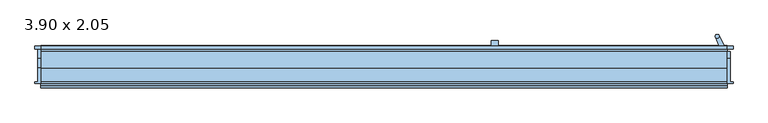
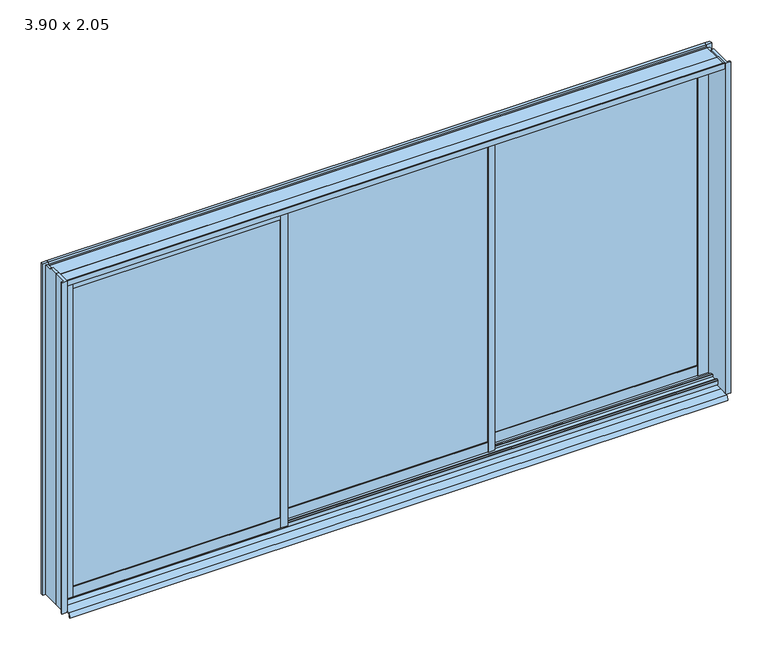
"""IFC4 building model written with IfcOpenShell, lengths in millimetres: window geometry, K-LINE COULISSANT NEUF-KLBC3R-3V : 3.90 x 2.05."""

import ifcopenshell
import ifcopenshell.guid

model = None  # the IFC model being written
_history = None  # IfcOwnerHistory: only IFC2X3 demands one
_inside = {}  # id of a spatial element -> (the spatial element, [elements in it])
_under = {}  # id of a project, library or spatial element -> (it, [spatial elements below it])
_declared = {}  # id of a project -> (the project, [libraries it declares])
_typed = {}  # id of a type object -> (the type object, [elements of that type])
_made_of = {}  # id of a material, layer set ... -> (it, [elements and type objects made of it])


def new_model(schema):
    """Start an empty IFC model of exactly this schema.

    Asked for "IFC4X3", IfcOpenShell would pick the latest addendum, in which some entities
    have other attributes; the version numbers below select the first issue.
    IFC2X3 requires an IfcOwnerHistory on every rooted entity: one is made here for all.
    """
    global model, _history
    if schema == "IFC4X3":
        model = ifcopenshell.file(schema_version=(4, 3, 0, 0))
    else:
        model = ifcopenshell.file(schema=schema)
    _inside.clear()
    _under.clear()
    _declared.clear()
    _typed.clear()
    _made_of.clear()
    _history = None
    if model.schema == "IFC2X3":
        org = make("IfcOrganization", Name="unknown")
        user = make(
            "IfcPersonAndOrganization",
            ThePerson=make("IfcPerson", FamilyName="unknown"),
            TheOrganization=org,
        )
        app = make(
            "IfcApplication",
            ApplicationDeveloper=org,
            Version="unknown",
            ApplicationFullName="unknown",
            ApplicationIdentifier="unknown",
        )
        _history = make(
            "IfcOwnerHistory",
            OwningUser=user,
            OwningApplication=app,
            ChangeAction="ADDED",
            CreationDate=0,
        )
    return model


def make(cls, **values):
    """One entity of the class cls with the attributes given. An attribute that is None is left unset."""
    return model.create_entity(
        cls, **{name: value for name, value in values.items() if value is not None}
    )


def rooted(cls, **values):
    """An entity with a GlobalId (a new one), such as an element, a storey or a relation."""
    return make(cls, GlobalId=ifcopenshell.guid.new(), OwnerHistory=_history, **values)


def si_unit(unit_type, name, prefix=None):
    """IfcSIUnit, for example si_unit("LENGTHUNIT", "METRE", prefix="MILLI")."""
    return make("IfcSIUnit", UnitType=unit_type, Prefix=prefix, Name=name)


def assignment(units):
    """IfcUnitAssignment: the units of a project."""
    return None if units is None else make("IfcUnitAssignment", Units=units)


def point(xyz):
    """IfcCartesianPoint."""
    return None if xyz is None else make("IfcCartesianPoint", Coordinates=xyz)


def direction(xyz):
    """IfcDirection."""
    return None if xyz is None else make("IfcDirection", DirectionRatios=xyz)


def frame(location, z_axis=None, x_axis=None):
    """IfcAxis2Placement3D, a coordinate frame: its origin and axes. An axis left out is left unset."""
    return make(
        "IfcAxis2Placement3D",
        Location=point(location),
        Axis=direction(z_axis),
        RefDirection=direction(x_axis),
    )


def frame_2d(location, x_axis=None):
    """IfcAxis2Placement2D, a coordinate frame in the plane: its origin and x axis."""
    return make(
        "IfcAxis2Placement2D", Location=point(location), RefDirection=direction(x_axis)
    )


def origin():
    """The frame at (0, 0, 0) with its axes left unset."""
    return frame((0.0, 0.0, 0.0))


def place(relative_to, where):
    """IfcLocalPlacement: puts the frame where relative to a parent placement (None: the world)."""
    return make(
        "IfcLocalPlacement", PlacementRelTo=relative_to, RelativePlacement=where
    )


def context(
    kind, dimensions, precision=None, world=None, true_north=None, identifier=None
):
    """IfcGeometricRepresentationContext, for example the 3D "Model" context."""
    return make(
        "IfcGeometricRepresentationContext",
        ContextIdentifier=identifier,
        ContextType=kind,
        CoordinateSpaceDimension=dimensions,
        Precision=precision,
        WorldCoordinateSystem=world,
        TrueNorth=true_north,
    )


def project(units=None, contexts=None):
    """IfcProject with its units and contexts."""
    return rooted(
        "IfcProject",
        Name="project",
        RepresentationContexts=contexts,
        UnitsInContext=assignment(units),
    )


def spatial(cls, under=None, at=None, **own):
    """A site, building, storey or space (cls), placed at a placement, below another one or the project."""
    s = rooted(cls, ObjectPlacement=at, **own)
    if under is not None:
        _under.setdefault(under.id(), (under, []))[1].append(s)
    return s


def polyline(points):
    """IfcPolyline through the points."""
    return make("IfcPolyline", Points=[point(p) for p in points])


def circle_curve(where, radius):
    """IfcCircle in the frame where."""
    return make("IfcCircle", Position=where, Radius=radius)


def trimmed(basis, trim1, trim2, sense, master):
    """IfcTrimmedCurve: the piece of a basis curve between two trims."""
    return make(
        "IfcTrimmedCurve",
        BasisCurve=basis,
        Trim1=trim1,
        Trim2=trim2,
        SenseAgreement=sense,
        MasterRepresentation=master,
    )


def segment(curve, same_sense, transition):
    """IfcCompositeCurveSegment."""
    return make(
        "IfcCompositeCurveSegment",
        Transition=transition,
        SameSense=same_sense,
        ParentCurve=curve,
    )


def composite_curve(segments, self_intersect=None):
    """IfcCompositeCurve: segments joined end to end."""
    return make("IfcCompositeCurve", Segments=segments, SelfIntersect=self_intersect)


def outline(outer, holes=None, kind="AREA"):
    """IfcArbitraryClosedProfileDef: a profile drawn as a closed curve; with holes, ...WithVoids."""
    if holes is None:
        return make("IfcArbitraryClosedProfileDef", ProfileType=kind, OuterCurve=outer)
    return make(
        "IfcArbitraryProfileDefWithVoids",
        ProfileType=kind,
        OuterCurve=outer,
        InnerCurves=holes,
    )


def extrude(swept, where, along, depth):
    """IfcExtrudedAreaSolid: the profile swept, set in the frame where, extruded along a direction by depth."""
    return make(
        "IfcExtrudedAreaSolid",
        SweptArea=swept,
        Position=where,
        ExtrudedDirection=direction(along),
        Depth=depth,
    )


def faces_of(points, faces, orient=None, outer=None):
    """IfcFace entities. A face is a list of loops; a loop is a list of indices into points, from 0.

    orient and outer hold one flag for each loop. By default every Orientation is true, the
    first loop of a face is its IfcFaceOuterBound and the others are IfcFaceBound.
    """
    made = []
    for i, loops in enumerate(faces):
        bounds = []
        for j, loop in enumerate(loops):
            is_outer = j == 0 if outer is None else outer[i][j]
            bounds.append(
                make(
                    "IfcFaceOuterBound" if is_outer else "IfcFaceBound",
                    Bound=make("IfcPolyLoop", Polygon=[points[k] for k in loop]),
                    Orientation=True if orient is None else orient[i][j],
                )
            )
        made.append(make("IfcFace", Bounds=bounds))
    return made


def faceted_brep(points, faces, orient=None, outer=None, voids=None):
    """IfcFacetedBrep: a solid bounded by flat faces; with voids (closed shells), ...WithVoids."""
    shared = [point(p) for p in points]
    hull = make("IfcClosedShell", CfsFaces=faces_of(shared, faces, orient, outer))
    if voids is None:
        return make("IfcFacetedBrep", Outer=hull)
    return make(
        "IfcFacetedBrepWithVoids",
        Outer=hull,
        Voids=[
            make(cls, CfsFaces=faces_of(shared, fs, o, b)) for cls, fs, o, b in voids
        ],
    )


def shape(context_of_items, identifier, shape_type, items):
    """IfcShapeRepresentation: the items that make up one representation, for example the "Body"."""
    return make(
        "IfcShapeRepresentation",
        ContextOfItems=context_of_items,
        RepresentationIdentifier=identifier,
        RepresentationType=shape_type,
        Items=items,
    )


def source(mapping_origin, context_of_items, identifier, shape_type, items):
    """IfcRepresentationMap: a shape defined once, which mapped items show again and again."""
    return make(
        "IfcRepresentationMap",
        MappingOrigin=mapping_origin,
        MappedRepresentation=shape(context_of_items, identifier, shape_type, items),
    )


def transform(
    local_origin,
    x_axis=None,
    y_axis=None,
    z_axis=None,
    scale=None,
    scale2=None,
    scale3=None,
    uniform=True,
):
    """IfcCartesianTransformationOperator3D, or its non-uniform kind. x_axis, y_axis, z_axis: its Axis1, 2, 3."""
    if uniform:
        return make(
            "IfcCartesianTransformationOperator3D",
            Axis1=direction(x_axis),
            Axis2=direction(y_axis),
            LocalOrigin=point(local_origin),
            Scale=scale,
            Axis3=direction(z_axis),
        )
    return make(
        "IfcCartesianTransformationOperator3DnonUniform",
        Axis1=direction(x_axis),
        Axis2=direction(y_axis),
        LocalOrigin=point(local_origin),
        Scale=scale,
        Axis3=direction(z_axis),
        Scale2=scale2,
        Scale3=scale3,
    )


def mapped(mapping_source, mapping_target):
    """IfcMappedItem: shows the shape of a source again, moved by a transform."""
    return make(
        "IfcMappedItem", MappingSource=mapping_source, MappingTarget=mapping_target
    )


def made_of(thing, what):
    """Note that an element or type object is made of a material, layer set ...; save() writes the relation."""
    if what is not None:
        _made_of.setdefault(what.id(), (what, []))[1].append(thing)
    return thing


def element(
    cls,
    number,
    at=None,
    inside=None,
    cuts=None,
    type_object=None,
    material=None,
    context=None,
    identifier="Body",
    shape_type=None,
    held_by="IfcProductDefinitionShape",
    body=None,
    shapes=None,
    **own,
):
    """One element of the class cls, such as IfcWall. Its Tag is "e" and its number.

    at: its placement. inside: the storey or other place that contains it. cuts: it is an
    opening in that element (IfcRelVoidsElement). A single representation is given by context,
    identifier, shape_type and body (its items); several are given by shapes. held_by: the class
    of the entity that holds the representations. save() writes the other relations.
    """
    e = rooted(cls, Tag="e%d" % number, ObjectPlacement=at, **own)
    if body is not None:
        shapes = [shape(context, identifier, shape_type, body)]
    if shapes is not None:
        e.Representation = make(held_by, Representations=shapes)
    if inside is not None:
        _inside.setdefault(inside.id(), (inside, []))[1].append(e)
    if cuts is not None:
        rooted(
            "IfcRelVoidsElement", RelatingBuildingElement=cuts, RelatedOpeningElement=e
        )
    if type_object is not None:
        _typed.setdefault(type_object.id(), (type_object, []))[1].append(e)
    return made_of(e, material)


def aggregate(whole, parts):
    """IfcRelAggregates: a whole, such as a stair, and the parts it consists of."""
    return rooted("IfcRelAggregates", RelatingObject=whole, RelatedObjects=parts)


def save(model, path):
    """Write the relations noted so far, then the file.

    IfcRelAggregates (storeys below a building ...), IfcRelContainedInSpatialStructure (elements
    in a storey), IfcRelDefinesByType, IfcRelAssociatesMaterial and IfcRelDeclares: one each for
    every whole, place, type object, material and project.
    """
    for whole, parts in _under.values():
        aggregate(whole, parts)
    for where, things in _inside.values():
        rooted(
            "IfcRelContainedInSpatialStructure",
            RelatedElements=things,
            RelatingStructure=where,
        )
    for kind, things in _typed.values():
        rooted("IfcRelDefinesByType", RelatedObjects=things, RelatingType=kind)
    for what, things in _made_of.values():
        rooted("IfcRelAssociatesMaterial", RelatedObjects=things, RelatingMaterial=what)
    for by, libraries in _declared.values():
        rooted("IfcRelDeclares", RelatingContext=by, RelatedDefinitions=libraries)
    model.write(path)


def plane_surface(at):
    """IfcPlane: the flat surface through the origin of the frame at, square to its z axis."""
    return make("IfcPlane", Position=at)


def cylinder_surface(at, radius):
    """IfcCylindricalSurface: all points at the distance radius from the z axis of the frame at."""
    return make("IfcCylindricalSurface", Position=at, Radius=radius)


def advanced_brep(points, edges, surfaces, faces):
    """IfcAdvancedBrep: a solid bounded by faces that lie on surfaces and meet in shared edges.

    An edge is (start, end): straight between two places in points (the first is 0);
    or (start, end, curve); or (start, end, curve, False) where it runs against its curve.
    A face is (place in surfaces, loops), or (place, loops, False) where it looks against
    its surface's normal. A loop lists edges by number (the first is 1), with a minus sign
    where the edge is run from its end to its start. The first loop is the outer one.
    """
    corners = [point(p) for p in points]
    vertices = [make("IfcVertexPoint", VertexGeometry=c) for c in corners]
    made = []
    for start, end, *more in edges:
        made.append(
            make(
                "IfcEdgeCurve",
                EdgeStart=vertices[start],
                EdgeEnd=vertices[end],
                EdgeGeometry=more[0] if more else make("IfcPolyline", Points=[corners[start], corners[end]]),
                SameSense=more[1] if len(more) > 1 else True,
            )
        )
    hull = []
    for where, loops, *sense in faces:
        bounds = []
        for j, loop in enumerate(loops):
            ring = [make("IfcOrientedEdge", EdgeElement=made[abs(k) - 1], Orientation=k > 0) for k in loop]
            bounds.append(
                make(
                    "IfcFaceOuterBound" if j == 0 else "IfcFaceBound",
                    Bound=make("IfcEdgeLoop", EdgeList=ring),
                    Orientation=True,
                )
            )
        hull.append(make("IfcAdvancedFace", Bounds=bounds, FaceSurface=surfaces[where], SameSense=sense[0] if sense else True))
    return make("IfcAdvancedBrep", Outer=make("IfcClosedShell", CfsFaces=hull))


def window_3_90_x_2_05_370ec719(model_context):
    return source(origin(), model_context, "Body", "SolidModel", [
        extrude(outline(polyline([(-625.0, -11.0), (625.0, -11.0), (625.0, -39.0), (-625.0, -39.0), (-625.0, -11.0)])), frame((0.0, 0.0, 92.0), z_axis=(0.0, 0.0, 1.0), x_axis=(1.0, 0.0, 0.0)), (0.0, 0.0, 1.0), 1897.0),
        faceted_brep([(-647.0, -17.0, 57.0), (-647.0, -33.0, 57.0), (-650.0, -33.0, 57.0), (-650.0, -17.0, 57.0), (-647.0, -33.0, 44.0), (-650.0, -33.0, 44.0), (-650.0, -17.0, 44.0), (-647.0, -17.0, 44.0), (-647.0, -17.0, 2024.0), (-647.0, -17.0, 2037.0), (-650.0, -17.0, 2037.0), (-650.0, -17.0, 2024.0), (-650.0, -33.0, 2024.0), (-650.0, -33.0, 2037.0), (-647.0, -33.0, 2037.0), (-647.0, -33.0, 2024.0), (-647.0, -53.25, 2037.0), (-650.0, -53.25, 2037.0), (-650.0, -3.25, 2037.0), (-647.0, -11.0, 2037.0), (-610.0, -11.0, 2037.0), (-610.0, -3.25, 2037.0), (-647.0, -11.0, 44.0), (-650.0, -3.25, 44.0), (-610.0, -3.25, 44.0), (-610.0, -11.0, 44.0), (-650.0, -53.25, 44.0), (-647.0, -53.25, 44.0)], [[[0, 1, 2, 3]], [[1, 4, 5, 2]], [[3, 6, 7, 0]], [[8, 9, 10, 11]], [[12, 13, 14, 15]], [[11, 12, 15, 8]], [[16, 14, 13, 17]], [[18, 10, 9, 19, 20, 21]], [[22, 7, 6, 23, 24, 25]], [[26, 5, 4, 27]], [[17, 26, 27, 16]], [[17, 13, 12, 11, 10, 18, 23, 6, 3, 2, 5, 26]], [[21, 24, 23, 18]], [[20, 25, 24, 21]], [[19, 22, 25, 20]], [[27, 4, 1, 0, 7, 22, 19, 9, 8, 15, 14, 16]]]),
        extrude(outline(polyline([(-650.0, 49.75), (-610.0, 49.75), (-610.0, -3.25), (-650.0, -3.25), (-650.0, 49.75)])), frame((0.0, 0.0, 57.0), z_axis=(0.0, 0.0, 1.0), x_axis=(1.0, 0.0, 0.0)), (0.0, 0.0, 1.0), 1967.0),
        extrude(outline(polyline([(-5.0, 44.0), (-17.0, 44.0), (-17.0, 57.0), (-25.0, 57.0), (-25.0, 92.0), (-11.0, 92.0), (-11.0, 106.0), (-5.0, 106.0), (-5.0, 44.0)])), frame((-610.0, 0.0, 0.0), z_axis=(1.0, 0.0, 0.0), x_axis=(0.0, 1.0, 0.0)), (0.0, 0.0, 1.0), 1220.0),
        extrude(outline(polyline([(-5.0, 2037.0), (-5.0, 1975.0), (-11.0, 1975.0), (-11.0, 1989.0), (-25.0, 1989.0), (-25.0, 2024.0), (-17.0, 2024.0), (-17.0, 2037.0), (-5.0, 2037.0)])), frame((-610.0, 0.0, 0.0), z_axis=(1.0, 0.0, 0.0), x_axis=(0.0, 1.0, 0.0)), (0.0, 0.0, 1.0), 1220.0),
        faceted_brep([(630.0, 3.25, 2037.0), (630.0, -3.25, 2037.0), (610.0, -3.25, 2037.0), (610.0, -11.0, 2037.0), (625.0, -11.0, 2037.0), (625.0, -17.0, 2037.0), (647.0, -17.0, 2037.0), (647.0, 3.25, 2037.0), (647.0, -39.0, 2037.0), (647.0, -33.0, 2037.0), (625.0, -33.0, 2037.0), (625.0, -39.0, 2037.0), (630.0, 3.25, 44.0), (647.0, 3.25, 44.0), (647.0, -17.0, 44.0), (625.0, -17.0, 44.0), (625.0, -11.0, 44.0), (610.0, -11.0, 44.0), (610.0, -3.25, 44.0), (630.0, -3.25, 44.0), (625.0, -39.0, 44.0), (625.0, -33.0, 44.0), (647.0, -33.0, 44.0), (647.0, -39.0, 44.0), (647.0, -17.0, 2024.0), (647.0, -33.0, 2024.0), (647.0, -33.0, 57.0), (647.0, -17.0, 57.0), (625.0, -33.0, 2024.0), (625.0, -17.0, 2024.0), (625.0, -17.0, 57.0), (625.0, -33.0, 57.0)], [[[0, 1, 2, 3, 4, 5, 6, 7]], [[8, 9, 10, 11]], [[12, 13, 14, 15, 16, 17, 18, 19]], [[20, 21, 22, 23]], [[7, 13, 12, 0]], [[7, 6, 24, 25, 9, 8, 23, 22, 26, 27, 14, 13]], [[11, 20, 23, 8]], [[11, 10, 28, 29, 5, 4, 16, 15, 30, 31, 21, 20]], [[3, 17, 16, 4]], [[2, 18, 17, 3]], [[1, 19, 18, 2]], [[0, 12, 19, 1]], [[27, 26, 31, 30]], [[26, 22, 21, 31]], [[30, 15, 14, 27]], [[24, 6, 5, 29]], [[28, 10, 9, 25]], [[29, 28, 25, 24]]]),
        faceted_brep([(-630.0, -53.25, 2037.0), (-630.0, -46.75, 2037.0), (-610.0, -46.75, 2037.0), (-610.0, -39.0, 2037.0), (-625.0, -39.0, 2037.0), (-625.0, -33.0, 2037.0), (-647.0, -33.0, 2037.0), (-647.0, -53.25, 2037.0), (-647.0, -11.0, 2037.0), (-647.0, -17.0, 2037.0), (-625.0, -17.0, 2037.0), (-625.0, -11.0, 2037.0), (-630.0, -53.25, 44.0), (-647.0, -53.25, 44.0), (-647.0, -33.0, 44.0), (-625.0, -33.0, 44.0), (-625.0, -39.0, 44.0), (-610.0, -39.0, 44.0), (-610.0, -46.75, 44.0), (-630.0, -46.75, 44.0), (-625.0, -11.0, 44.0), (-625.0, -17.0, 44.0), (-647.0, -17.0, 44.0), (-647.0, -11.0, 44.0), (-625.0, -17.0, 57.0), (-625.0, -33.0, 57.0), (-647.0, -33.0, 57.0), (-647.0, -17.0, 57.0), (-625.0, -17.0, 2024.0), (-647.0, -17.0, 2024.0), (-647.0, -33.0, 2024.0), (-625.0, -33.0, 2024.0)], [[[0, 1, 2, 3, 4, 5, 6, 7]], [[8, 9, 10, 11]], [[12, 13, 14, 15, 16, 17, 18, 19]], [[20, 21, 22, 23]], [[24, 25, 26, 27]], [[25, 15, 14, 26]], [[27, 22, 21, 24]], [[28, 10, 9, 29]], [[30, 6, 5, 31]], [[29, 30, 31, 28]], [[7, 13, 12, 0]], [[7, 6, 30, 29, 9, 8, 23, 22, 27, 26, 14, 13]], [[11, 20, 23, 8]], [[11, 10, 28, 31, 5, 4, 16, 15, 25, 24, 21, 20]], [[3, 17, 16, 4]], [[2, 18, 17, 3]], [[1, 19, 18, 2]], [[0, 12, 19, 1]]]),
        faceted_brep([(647.0, 3.25, 2037.0), (647.0, -17.0, 2037.0), (650.0, -17.0, 2037.0), (650.0, 3.25, 2037.0), (650.0, -46.75, 2037.0), (650.0, -33.0, 2037.0), (647.0, -33.0, 2037.0), (647.0, -39.0, 2037.0), (610.0, -39.0, 2037.0), (610.0, -46.75, 2037.0), (647.0, -39.0, 44.0), (647.0, -33.0, 44.0), (650.0, -33.0, 44.0), (650.0, -46.75, 44.0), (610.0, -46.75, 44.0), (610.0, -39.0, 44.0), (650.0, 3.25, 44.0), (650.0, -17.0, 44.0), (647.0, -17.0, 44.0), (647.0, 3.25, 44.0), (650.0, -17.0, 2024.0), (650.0, -33.0, 2024.0), (650.0, -33.0, 57.0), (650.0, -17.0, 57.0), (647.0, -17.0, 57.0), (647.0, -33.0, 57.0), (647.0, -33.0, 2024.0), (647.0, -17.0, 2024.0)], [[[0, 1, 2, 3]], [[4, 5, 6, 7, 8, 9]], [[10, 11, 12, 13, 14, 15]], [[16, 17, 18, 19]], [[3, 16, 19, 0]], [[3, 2, 20, 21, 5, 4, 13, 12, 22, 23, 17, 16]], [[9, 14, 13, 4]], [[8, 15, 14, 9]], [[7, 10, 15, 8]], [[19, 18, 24, 25, 11, 10, 7, 6, 26, 27, 1, 0]], [[23, 22, 25, 24]], [[22, 12, 11, 25]], [[24, 18, 17, 23]], [[20, 2, 1, 27]], [[26, 6, 5, 21]], [[27, 26, 21, 20]]]),
        extrude(outline(polyline([(-45.0, 44.0), (-45.0, 106.0), (-39.0, 106.0), (-39.0, 92.0), (-25.0, 92.0), (-25.0, 57.0), (-33.0, 57.0), (-33.0, 44.0), (-45.0, 44.0)])), frame((-610.0, 0.0, 0.0), z_axis=(1.0, 0.0, 0.0), x_axis=(0.0, 1.0, 0.0)), (0.0, 0.0, 1.0), 1220.0),
        extrude(outline(polyline([(-45.0, 2037.0), (-33.0, 2037.0), (-33.0, 2024.0), (-25.0, 2024.0), (-25.0, 1989.0), (-39.0, 1989.0), (-39.0, 1975.0), (-45.0, 1975.0), (-45.0, 2037.0)])), frame((-610.0, 0.0, 0.0), z_axis=(1.0, 0.0, 0.0), x_axis=(0.0, 1.0, 0.0)), (0.0, 0.0, 1.0), 1220.0),
        extrude(outline(composite_curve([segment(polyline([(-175.2000885, 11.2777699), (-115.0, 13.3054296), (-115.0, 5.0), (-178.7764266, 5.0), (-178.7764266, -16.0), (-185.2764266, -16.0)]), True, "CONTINUOUS"), segment(trimmed(circle_curve(frame_2d((-154.7928846, -11.7605704)), 30.7769247), [point((-185.2764266, -16.0))], [point((-175.2000885, 11.2777699))], False, "CARTESIAN"), True, "CONTINUOUS")], self_intersect=False)), frame((-1950.0, 0.0, 0.0), z_axis=(1.0, 0.0, 0.0), x_axis=(0.0, 1.0, 0.0)), (0.0, 0.0, 1.0), 3900.0),
        faceted_brep([(-1950.0, -160.0, 2082.0), (-1950.0, -72.5, 2082.0), (-1965.0, -72.5, 2082.0), (-1965.0, -152.0, 2082.0), (-1982.0, -152.0, 2082.0), (-1982.0, -160.0, 2082.0), (-1950.0, -160.0, 5.0), (-1982.0, -160.0, 5.0), (-1982.0, -152.0, 5.0), (-1965.0, -152.0, 5.0), (-1965.0, -72.5, 5.0), (-1950.0, -72.5, 5.0)], [[[0, 1, 2, 3, 4, 5]], [[6, 7, 8, 9, 10, 11]], [[5, 7, 6, 0]], [[4, 8, 7, 5]], [[3, 9, 8, 4]], [[2, 10, 9, 3]], [[0, 6, 11, 1]], [[1, 11, 10, 2]]]),
        faceted_brep([(1965.0, -152.0, 2082.0), (1965.0, -17.5, 2082.0), (1950.0, -17.5, 2082.0), (1950.0, -160.0, 2082.0), (1982.0, -160.0, 2082.0), (1982.0, -152.0, 2082.0), (1950.0, -160.0, 5.0), (1950.0, 22.5, 5.0), (1965.0, 22.5, 5.0), (1965.0, -152.0, 5.0), (1982.0, -152.0, 5.0), (1982.0, -160.0, 5.0), (1950.0, -17.5, 2069.3), (1950.0, 22.5, 2069.3), (1965.0, 22.5, 2069.3), (1965.0, -17.5, 2069.3)], [[[0, 1, 2, 3, 4, 5]], [[6, 7, 8, 9, 10, 11]], [[6, 3, 2, 12, 13, 7]], [[7, 13, 14, 8]], [[8, 14, 15, 1, 0, 9]], [[5, 10, 9, 0]], [[4, 11, 10, 5]], [[3, 6, 11, 4]], [[15, 14, 13, 12]], [[12, 2, 1, 15]]]),
        faceted_brep([(-1982.0, 51.75, 2082.0), (-1982.0, 35.0, 2082.0), (-1950.0, 35.0, 2082.0), (-1950.0, 51.75, 2082.0), (-1950.0, -72.5, 2082.0), (-1950.0, -17.5, 2082.0), (-1965.0, -17.5, 2082.0), (-1965.0, -72.5, 2082.0), (-1982.0, 51.75, 5.0), (-1950.0, 51.75, 5.0), (-1950.0, -72.5, 5.0), (-1965.0, -72.5, 5.0), (-1965.0, 35.0, 5.0), (-1982.0, 35.0, 5.0), (-1950.0, 35.0, 2069.3), (-1950.0, -17.5, 2069.3), (-1965.0, -17.5, 2069.3), (-1965.0, 35.0, 2069.3)], [[[0, 1, 2, 3]], [[4, 5, 6, 7]], [[8, 9, 10, 11, 12, 13]], [[3, 9, 8, 0]], [[9, 3, 2, 14, 15, 5, 4, 10]], [[11, 7, 6, 16, 17, 12]], [[2, 1, 13, 12, 17, 14]], [[0, 8, 13, 1]], [[17, 16, 15, 14]], [[16, 6, 5, 15]], [[7, 11, 10, 4]]]),
        faceted_brep([(1982.0, 51.75, 2082.0), (1950.0, 51.75, 2082.0), (1950.0, 35.0, 2082.0), (1965.0, 35.0, 2082.0), (1982.0, 35.0, 2082.0), (1982.0, 51.75, 5.0), (1982.0, 35.0, 5.0), (1950.0, 35.0, 5.0), (1950.0, 51.75, 5.0), (1950.0, 35.0, 2069.3)], [[[0, 1, 2, 3, 4]], [[5, 6, 7, 8]], [[4, 6, 5, 0]], [[6, 4, 3, 2, 9, 7]], [[1, 8, 7, 9, 2]], [[0, 5, 8, 1]]]),
        extrude(outline(polyline([(-17.5, 53.0), (-17.5, 41.0), (22.5, 41.0), (22.5, 53.0000399), (30.0, 54.0000399), (37.5, 53.0000399), (37.5, 50.5), (30.0, 50.5), (30.0, 5.0), (-73.5, 5.0), (-73.5, 50.5), (-87.5, 50.5), (-87.5, 53.0), (-80.0, 54.0), (-72.5, 53.0), (-72.5, 41.0), (-32.5, 41.0), (-32.5, 53.0), (-25.0, 54.0), (-17.5, 53.0)])), frame((-1950.0, 0.0, 0.0), z_axis=(1.0, 0.0, 0.0), x_axis=(0.0, 1.0, 0.0)), (0.0, 0.0, 1.0), 3900.0),
        extrude(outline(polyline([(22.5, 2069.3), (22.5, 2050.0), (-17.5, 2050.0), (-17.5, 2027.0), (-32.5, 2027.0), (-32.5, 2050.0), (-72.5, 2050.0), (-72.5, 2069.3), (22.5, 2069.3)])), frame((-1950.0, 0.0, 0.0), z_axis=(1.0, 0.0, 0.0), x_axis=(0.0, 1.0, 0.0)), (0.0, 0.0, 1.0), 3900.0),
        extrude(outline(polyline([(51.75, 2082.0), (51.75, 2050.0), (37.5, 2050.0), (37.5, 2027.0), (22.5, 2027.0), (22.5, 2069.3), (35.0, 2069.3), (35.0, 2082.0), (51.75, 2082.0)])), frame((-1950.0, 0.0, 0.0), z_axis=(1.0, 0.0, 0.0), x_axis=(0.0, 1.0, 0.0)), (0.0, 0.0, 1.0), 3900.0),
        extrude(outline(polyline([(54.75, 28.0), (54.75, 50.5), (56.75, 50.5), (56.75, 26.0), (51.75, 26.0), (51.75, 5.0), (30.0, 5.0), (30.0, 50.5), (37.5, 50.5), (37.5, 28.0), (54.75, 28.0)])), frame((-1950.0, 0.0, 0.0), z_axis=(1.0, 0.0, 0.0), x_axis=(0.0, 1.0, 0.0)), (0.0, 0.0, 1.0), 3900.0),
        extrude(outline(polyline([(-152.0, 2082.0), (-152.0, 2069.3), (-72.5, 2069.3), (-72.5, 2027.0), (-87.5, 2027.0), (-87.5, 2050.0), (-160.0, 2050.0), (-160.0, 2082.0), (-152.0, 2082.0)])), frame((-1950.0, 0.0, 0.0), z_axis=(1.0, 0.0, 0.0), x_axis=(0.0, 1.0, 0.0)), (0.0, 0.0, 1.0), 3900.0),
        extrude(outline(polyline([(-73.5, 50.5), (-73.5, 5.0), (-115.0, 5.0), (-115.0, 13.3054397), (-75.0, 14.6999056), (-75.0, 26.0), (-87.5, 26.0), (-87.5, 50.5), (-73.5, 50.5)])), frame((-1950.0, 0.0, 0.0), z_axis=(1.0, 0.0, 0.0), x_axis=(0.0, 1.0, 0.0)), (0.0, 0.0, 1.0), 3900.0),
        extrude(outline(polyline([(1950.0, 22.5), (1937.0, 22.5), (1937.0, 37.5), (1950.0, 37.5), (1950.0, 22.5)])), frame((0.0, 0.0, 50.5), z_axis=(0.0, 0.0, 1.0), x_axis=(1.0, 0.0, 0.0)), (0.0, 0.0, 1.0), 1976.5),
        extrude(outline(polyline([(-1937.0, -87.5), (-1950.0, -87.5), (-1950.0, -72.5), (-1937.0, -72.5), (-1937.0, -87.5)])), frame((0.0, 0.0, 50.5), z_axis=(0.0, 0.0, 1.0), x_axis=(1.0, 0.0, 0.0)), (0.0, 0.0, 1.0), 1976.5),
        extrude(outline(polyline([(1898.5, 44.0), (1898.5, 16.0), (635.0, 16.0), (635.0, 44.0), (1898.5, 44.0)])), frame((0.0, 0.0, 92.0), z_axis=(0.0, 0.0, 1.0), x_axis=(1.0, 0.0, 0.0)), (0.0, 0.0, 1.0), 1897.0),
        advanced_brep(
        [(1928.5, 51.75, 1120.5), (1928.5, 58.75, 1120.5), (1902.6288485, 111.1773049, 1120.5), (1883.2130019, 102.0019585, 1120.5), (1900.5, 58.75, 1120.5), (1900.5, 51.75, 1120.5), (1928.5, 51.75, 960.5), (1900.5, 51.75, 960.5), (1900.5, 58.75, 960.5), (1883.2130019, 102.0019585, 960.5), (1902.6288485, 111.1773049, 960.5), (1928.5, 58.75, 960.5), (1900.5, 58.75, 1109.7), (1900.5, 58.75, 971.3), (1928.5, 58.75, 1109.7), (1928.5, 58.75, 971.3), (1902.6288485, 111.1773049, 971.3), (1883.2130019, 102.0019585, 971.3), (1883.2130019, 102.0019585, 1109.7), (1902.6288485, 111.1773049, 1109.7), (1884.3501656, 116.75, 1157.5), (1899.4498344, 116.75, 1157.5), (1884.3501656, 116.75, 923.5), (1899.4498344, 116.75, 923.5)],
        [
            (0, 1),
            (1, 2),
            (2, 3, circle_curve(frame((1891.9, 108.75, 1120.5), z_axis=(0.0, 0.0, -1.0), x_axis=(1.0, 0.0, 0.0)), 11.0)),
            (3, 4),
            (4, 5),
            (5, 0),
            (6, 7),
            (7, 8),
            (8, 9),
            (9, 10, circle_curve(frame((1891.9, 108.75, 960.5), z_axis=(0.0, 0.0, 1.0), x_axis=(1.0, 0.0, 0.0)), 11.0)),
            (10, 11),
            (11, 6),
            (5, 7),
            (6, 0),
            (4, 12),
            (12, 13),
            (13, 8),
            (12, 14),
            (14, 15),
            (15, 13),
            (11, 15),
            (14, 1),
            (16, 17, circle_curve(frame((1891.9, 108.75, 971.3), z_axis=(0.0, 0.0, -1.0), x_axis=(1.0, 0.0, 0.0)), 11.0)),
            (17, 13),
            (15, 16),
            (10, 16),
            (17, 9),
            (18, 19, circle_curve(frame((1891.9, 108.75, 1109.7), z_axis=(0.0, 0.0, 1.0), x_axis=(1.0, 0.0, 0.0)), 11.0)),
            (19, 14),
            (12, 18),
            (19, 2),
            (3, 18),
            (20, 21, circle_curve(frame((1891.9, 108.75, 1157.5), z_axis=(0.0, 0.0, 1.0), x_axis=(1.0, 0.0, 0.0)), 11.0)),
            (21, 20),
            (22, 23),
            (23, 22, circle_curve(frame((1891.9, 108.75, 923.5), z_axis=(0.0, 0.0, -1.0), x_axis=(1.0, 0.0, 0.0)), 11.0)),
            (21, 23),
            (22, 20),
        ],
        [
            plane_surface(frame((1907.0679799, 51.75, 1120.5), z_axis=(0.0, 0.0, 1.0), x_axis=(-1.0, 0.0, 0.0))),
            plane_surface(frame((1907.0679799, 51.75, 960.5), z_axis=(0.0, 0.0, -1.0), x_axis=(1.0, 0.0, 0.0))),
            plane_surface(frame((1928.5, 51.75, 1120.5), z_axis=(0.0, -1.0, 0.0), x_axis=(0.0, 0.0, -1.0))),
            plane_surface(frame((1900.5, 51.75, 1120.5), z_axis=(-1.0, 0.0, 0.0), x_axis=(0.0, 0.0, -1.0))),
            plane_surface(frame((1900.5, 58.75, 1120.5), z_axis=(0.0, 1.0, 0.0), x_axis=(0.0, 0.0, -1.0))),
            plane_surface(frame((1928.5, 58.75, 1120.5), z_axis=(1.0, 0.0, 0.0), x_axis=(0.0, 0.0, -1.0))),
            plane_surface(frame((1902.9, 108.75, 971.3), z_axis=(0.0, 0.0, 1.0), x_axis=(0.0, 1.0, 0.0))),
            plane_surface(frame((1902.6288485, 111.1773049, 971.3), z_axis=(0.8967582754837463, 0.4425207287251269, 0.0), x_axis=(0.0, 0.0, -1.0))),
            plane_surface(frame((1900.5, 58.75, 971.3), z_axis=(-0.9285787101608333, -0.37113552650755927, 0.0), x_axis=(0.0, 0.0, -1.0))),
            plane_surface(frame((1902.9, 108.75, 1109.7), z_axis=(0.0, 0.0, -1.0), x_axis=(0.0, -1.0, 0.0))),
            plane_surface(frame((1902.6288485, 111.1773049, 1120.5), z_axis=(0.8967582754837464, 0.44252072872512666, 0.0), x_axis=(0.0, 0.0, -1.0))),
            plane_surface(frame((1900.5, 58.75, 1120.5), z_axis=(-0.9285787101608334, -0.37113552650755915, 0.0), x_axis=(0.0, 0.0, -1.0))),
            plane_surface(frame((1884.3501656, 116.75, 1157.5), z_axis=(0.0, 0.0, 1.0), x_axis=(1.0, 0.0, 0.0))),
            plane_surface(frame((1884.3501656, 116.75, 923.5), z_axis=(0.0, 0.0, -1.0), x_axis=(-1.0, 0.0, 0.0))),
            plane_surface(frame((1884.3501656, 116.75, 1157.5), z_axis=(0.0, 1.0, 0.0), x_axis=(0.0, 0.0, -1.0))),
            cylinder_surface(frame((1891.9, 108.75, 923.5), z_axis=(0.0, 0.0, 1.0), x_axis=(1.0, 0.0, 0.0)), 11.0),
        ],
        [
            (0, [[1, 2, 3, 4, 5, 6]]),
            (1, [[7, 8, 9, 10, 11, 12]]),
            (2, [[13, -7, 14, -6]]),
            (3, [[15, 16, 17, -8, -13, -5]]),
            (4, [[-16, 18, 19, 20]]),
            (5, [[-14, -12, 21, -19, 22, -1]]),
            (6, [[23, 24, -20, 25]]),
            (7, [[-21, -11, 26, -25]]),
            (8, [[27, -9, -17, -24]]),
            (9, [[28, 29, -18, 30]]),
            (10, [[-22, -29, 31, -2]]),
            (11, [[32, -30, -15, -4]]),
            (12, [[33, 34]]),
            (13, [[35, 36]]),
            (14, [[37, -35, 38, -34]]),
            (15, [[-38, -36, -37, -33], [-27, -23, -26, -10], [-31, -28, -32, -3]]),
        ],
    ),
        extrude(outline(polyline([(650.0, 83.75), (650.0, 51.75), (610.0, 51.75), (610.0, 83.75), (650.0, 83.75)])), frame((0.0, 0.0, 57.0), z_axis=(0.0, 0.0, 1.0), x_axis=(1.0, 0.0, 0.0)), (0.0, 0.0, 1.0), 1980.0),
        faceted_brep([(630.0, 1.75, 2037.0), (630.0, 8.25, 2037.0), (650.0, 8.25, 2037.0), (650.0, 16.0, 2037.0), (635.0, 16.0, 2037.0), (635.0, 22.0, 2037.0), (613.0, 22.0, 2037.0), (613.0, 1.75, 2037.0), (635.0, 44.0, 2037.0), (613.0, 44.0, 2037.0), (613.0, 38.0, 2037.0), (635.0, 38.0, 2037.0), (630.0, 1.75, 44.0), (613.0, 1.75, 44.0), (613.0, 22.0, 44.0), (635.0, 22.0, 44.0), (635.0, 16.0, 44.0), (650.0, 16.0, 44.0), (650.0, 8.25, 44.0), (630.0, 8.25, 44.0), (613.0, 44.0, 44.0), (635.0, 44.0, 44.0), (635.0, 38.0, 44.0), (613.0, 38.0, 44.0), (635.0, 22.0, 57.0), (635.0, 38.0, 57.0), (635.0, 38.0, 2024.0), (635.0, 22.0, 2024.0), (613.0, 38.0, 57.0), (613.0, 22.0, 57.0), (613.0, 22.0, 2024.0), (613.0, 38.0, 2024.0)], [[[0, 1, 2, 3, 4, 5, 6, 7]], [[8, 9, 10, 11]], [[12, 13, 14, 15, 16, 17, 18, 19]], [[20, 21, 22, 23]], [[1, 0, 12, 19]], [[2, 1, 19, 18]], [[3, 2, 18, 17]], [[4, 3, 17, 16]], [[4, 16, 15, 24, 25, 22, 21, 8, 11, 26, 27, 5]], [[9, 8, 21, 20]], [[9, 20, 23, 28, 29, 14, 13, 7, 6, 30, 31, 10]], [[0, 7, 13, 12]], [[28, 25, 24, 29]], [[29, 24, 15, 14]], [[25, 28, 23, 22]], [[31, 26, 11, 10]], [[27, 30, 6, 5]], [[26, 31, 30, 27]]]),
        faceted_brep([(613.0, 44.0, 2037.0), (650.0, 44.0, 2037.0), (650.0, 51.75, 2037.0), (610.0, 51.75, 2037.0), (610.0, 38.0, 2037.0), (613.0, 38.0, 2037.0), (610.0, 1.75, 2037.0), (613.0, 1.75, 2037.0), (613.0, 22.0, 2037.0), (610.0, 22.0, 2037.0), (613.0, 1.75, 44.0), (610.0, 1.75, 44.0), (610.0, 22.0, 44.0), (613.0, 22.0, 44.0), (610.0, 51.75, 44.0), (650.0, 51.75, 44.0), (650.0, 44.0, 44.0), (613.0, 44.0, 44.0), (613.0, 38.0, 44.0), (610.0, 38.0, 44.0), (610.0, 22.0, 2024.0), (610.0, 38.0, 2024.0), (610.0, 38.0, 57.0), (610.0, 22.0, 57.0), (613.0, 22.0, 57.0), (613.0, 38.0, 57.0), (613.0, 38.0, 2024.0), (613.0, 22.0, 2024.0)], [[[0, 1, 2, 3, 4, 5]], [[6, 7, 8, 9]], [[10, 11, 12, 13]], [[14, 15, 16, 17, 18, 19]], [[7, 6, 11, 10]], [[11, 6, 9, 20, 21, 4, 3, 14, 19, 22, 23, 12]], [[3, 2, 15, 14]], [[2, 1, 16, 15]], [[1, 0, 17, 16]], [[7, 10, 13, 24, 25, 18, 17, 0, 5, 26, 27, 8]], [[22, 25, 24, 23]], [[23, 24, 13, 12]], [[25, 22, 19, 18]], [[21, 26, 5, 4]], [[27, 20, 9, 8]], [[26, 21, 20, 27]]]),
        extrude(outline(polyline([(50.0, 44.0), (38.0, 44.0), (38.0, 57.0), (30.0, 57.0), (30.0, 92.0), (44.0, 92.0), (44.0, 106.0), (50.0, 106.0), (50.0, 44.0)])), frame((650.0, 0.0, 0.0), z_axis=(1.0, 0.0, 0.0), x_axis=(0.0, 1.0, 0.0)), (0.0, 0.0, 1.0), 1233.5),
        extrude(outline(polyline([(50.0, 2037.0), (50.0, 1975.0), (44.0, 1975.0), (44.0, 1989.0), (30.0, 1989.0), (30.0, 2024.0), (38.0, 2024.0), (38.0, 2037.0), (50.0, 2037.0)])), frame((650.0, 0.0, 0.0), z_axis=(1.0, 0.0, 0.0), x_axis=(0.0, 1.0, 0.0)), (0.0, 0.0, 1.0), 1233.5),
        faceted_brep([(1946.0, 8.25, 2037.0), (1946.0, 22.0, 2037.0), (1898.5, 22.0, 2037.0), (1898.5, 16.0, 2037.0), (1883.5, 16.0, 2037.0), (1883.5, 8.25, 2037.0), (1946.0, 8.25, 44.0), (1883.5, 8.25, 44.0), (1883.5, 16.0, 44.0), (1898.5, 16.0, 44.0), (1898.5, 22.0, 44.0), (1946.0, 22.0, 44.0), (1898.5, 22.0, 2024.0), (1898.5, 30.0, 2024.0), (1898.5, 30.0, 57.0), (1898.5, 22.0, 57.0), (1933.0, 30.0, 2024.0), (1933.0, 30.0, 57.0), (1933.0, 22.0, 2024.0), (1933.0, 22.0, 57.0)], [[[0, 1, 2, 3, 4, 5]], [[6, 7, 8, 9, 10, 11]], [[0, 5, 7, 6]], [[5, 4, 8, 7]], [[4, 3, 9, 8]], [[9, 3, 2, 12, 13, 14, 15, 10]], [[14, 13, 16, 17]], [[17, 16, 18, 19]], [[10, 15, 19, 18, 12, 2, 1, 11]], [[11, 1, 0, 6]], [[19, 15, 14, 17]], [[12, 18, 16, 13]]]),
        faceted_brep([(1946.0, 51.75, 2037.0), (1883.5, 51.75, 2037.0), (1883.5, 44.0, 2037.0), (1898.5, 44.0, 2037.0), (1898.5, 38.0, 2037.0), (1946.0, 38.0, 2037.0), (1946.0, 51.75, 44.0), (1946.0, 38.0, 44.0), (1898.5, 38.0, 44.0), (1898.5, 44.0, 44.0), (1883.5, 44.0, 44.0), (1883.5, 51.75, 44.0), (1898.5, 38.0, 57.0), (1898.5, 30.0, 57.0), (1898.5, 30.0, 2024.0), (1898.5, 38.0, 2024.0), (1933.0, 30.0, 57.0), (1933.0, 30.0, 2024.0), (1933.0, 38.0, 57.0), (1933.0, 38.0, 2024.0)], [[[0, 1, 2, 3, 4, 5]], [[6, 7, 8, 9, 10, 11]], [[1, 0, 6, 11]], [[2, 1, 11, 10]], [[3, 2, 10, 9]], [[3, 9, 8, 12, 13, 14, 15, 4]], [[14, 13, 16, 17]], [[17, 16, 18, 19]], [[4, 15, 19, 18, 12, 8, 7, 5]], [[0, 5, 7, 6]], [[12, 18, 16, 13]], [[19, 15, 14, 17]]]),
        extrude(outline(polyline([(10.0, 44.0), (10.0, 106.0), (16.0, 106.0), (16.0, 92.0), (30.0, 92.0), (30.0, 57.0), (22.0, 57.0), (22.0, 44.0), (10.0, 44.0)])), frame((650.0, 0.0, 0.0), z_axis=(1.0, 0.0, 0.0), x_axis=(0.0, 1.0, 0.0)), (0.0, 0.0, 1.0), 1233.5),
        extrude(outline(polyline([(10.0, 2037.0), (22.0, 2037.0), (22.0, 2024.0), (30.0, 2024.0), (30.0, 1989.0), (16.0, 1989.0), (16.0, 1975.0), (10.0, 1975.0), (10.0, 2037.0)])), frame((650.0, 0.0, 0.0), z_axis=(1.0, 0.0, 0.0), x_axis=(0.0, 1.0, 0.0)), (0.0, 0.0, 1.0), 1233.5),
        extrude(outline(polyline([(-1898.5, -66.0), (-635.0, -66.0), (-635.0, -94.0), (-1898.5, -94.0), (-1898.5, -66.0)])), frame((0.0, 0.0, 92.0), z_axis=(0.0, 0.0, 1.0), x_axis=(1.0, 0.0, 0.0)), (0.0, 0.0, 1.0), 1897.0),
        advanced_brep(
        [(-1928.5, -58.25, 1120.5), (-1900.5, -58.25, 1120.5), (-1900.5, -51.25, 1120.5), (-1883.2130019, -7.9980415, 1120.5), (-1902.6288485, 1.1773049, 1120.5), (-1928.5, -51.25, 1120.5), (-1928.5, -58.25, 960.5), (-1928.5, -51.25, 960.5), (-1902.6288485, 1.1773049, 960.5), (-1883.2130019, -7.9980415, 960.5), (-1900.5, -51.25, 960.5), (-1900.5, -58.25, 960.5), (-1900.5, -51.25, 971.3), (-1900.5, -51.25, 1109.7), (-1928.5, -51.25, 971.3), (-1928.5, -51.25, 1109.7), (-1902.6288485, 1.1773049, 971.3), (-1883.2130019, -7.9980415, 971.3), (-1883.2130019, -7.9980415, 1109.7), (-1902.6288485, 1.1773049, 1109.7), (-1884.3501656, 6.75, 1157.5), (-1899.4498344, 6.75, 1157.5), (-1884.3501656, 6.75, 923.5), (-1899.4498344, 6.75, 923.5)],
        [
            (0, 1),
            (1, 2),
            (2, 3),
            (3, 4, circle_curve(frame((-1891.9, -1.25, 1120.5), z_axis=(0.0, 0.0, -1.0), x_axis=(-1.0, 0.0, 0.0)), 11.0)),
            (4, 5),
            (5, 0),
            (6, 7),
            (7, 8),
            (8, 9, circle_curve(frame((-1891.9, -1.25, 960.5), z_axis=(0.0, 0.0, 1.0), x_axis=(-1.0, 0.0, 0.0)), 11.0)),
            (9, 10),
            (10, 11),
            (11, 6),
            (0, 6),
            (11, 1),
            (10, 12),
            (12, 13),
            (13, 2),
            (12, 14),
            (14, 15),
            (15, 13),
            (5, 15),
            (14, 7),
            (16, 14),
            (12, 17),
            (17, 16, circle_curve(frame((-1891.9, -1.25, 971.3), z_axis=(0.0, 0.0, -1.0), x_axis=(-1.0, 0.0, 0.0)), 11.0)),
            (16, 8),
            (9, 17),
            (18, 13),
            (15, 19),
            (19, 18, circle_curve(frame((-1891.9, -1.25, 1109.7), z_axis=(0.0, 0.0, 1.0), x_axis=(-1.0, 0.0, 0.0)), 11.0)),
            (4, 19),
            (18, 3),
            (20, 21),
            (21, 20, circle_curve(frame((-1891.9, -1.25, 1157.5), z_axis=(0.0, 0.0, 1.0), x_axis=(-1.0, 0.0, 0.0)), 11.0)),
            (22, 23, circle_curve(frame((-1891.9, -1.25, 923.5), z_axis=(0.0, 0.0, -1.0), x_axis=(-1.0, 0.0, 0.0)), 11.0)),
            (23, 22),
            (20, 22),
            (23, 21),
        ],
        [
            plane_surface(frame((-1907.0679799, -58.25, 1120.5), z_axis=(0.0, 0.0, 1.0), x_axis=(1.0, 0.0, 0.0))),
            plane_surface(frame((-1907.0679799, -58.25, 960.5), z_axis=(0.0, 0.0, -1.0), x_axis=(-1.0, 0.0, 0.0))),
            plane_surface(frame((-1928.5, -58.25, 1120.5), z_axis=(0.0, -1.0, 0.0), x_axis=(0.0, 0.0, -1.0))),
            plane_surface(frame((-1900.5, -58.25, 1120.5), z_axis=(1.0, 0.0, 0.0), x_axis=(0.0, 0.0, -1.0))),
            plane_surface(frame((-1900.5, -51.25, 1120.5), z_axis=(0.0, 1.0, 0.0), x_axis=(0.0, 0.0, -1.0))),
            plane_surface(frame((-1928.5, -51.25, 1120.5), z_axis=(-1.0, 0.0, 0.0), x_axis=(0.0, 0.0, -1.0))),
            plane_surface(frame((-1902.9, -1.25, 971.3), z_axis=(0.0, 0.0, 1.0), x_axis=(0.0, 1.0, 0.0))),
            plane_surface(frame((-1902.6288485, 1.1773049, 971.3), z_axis=(-0.8967582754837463, 0.4425207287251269, 0.0), x_axis=(0.0, 0.0, -1.0))),
            plane_surface(frame((-1900.5, -51.25, 971.3), z_axis=(0.9285787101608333, -0.37113552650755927, 0.0), x_axis=(0.0, 0.0, -1.0))),
            plane_surface(frame((-1902.9, -1.25, 1109.7), z_axis=(0.0, 0.0, -1.0), x_axis=(0.0, -1.0, 0.0))),
            plane_surface(frame((-1902.6288485, 1.1773049, 1120.5), z_axis=(-0.8967582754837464, 0.44252072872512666, 0.0), x_axis=(0.0, 0.0, -1.0))),
            plane_surface(frame((-1900.5, -51.25, 1120.5), z_axis=(0.9285787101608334, -0.37113552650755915, 0.0), x_axis=(0.0, 0.0, -1.0))),
            plane_surface(frame((-1884.3501656, 6.75, 1157.5), z_axis=(0.0, 0.0, 1.0), x_axis=(-1.0, 0.0, 0.0))),
            plane_surface(frame((-1884.3501656, 6.75, 923.5), z_axis=(0.0, 0.0, -1.0), x_axis=(1.0, 0.0, 0.0))),
            plane_surface(frame((-1884.3501656, 6.75, 1157.5), z_axis=(0.0, 1.0, 0.0), x_axis=(0.0, 0.0, -1.0))),
            cylinder_surface(frame((-1891.9, -1.25, 923.5), z_axis=(0.0, 0.0, 1.0), x_axis=(-1.0, 0.0, 0.0)), 11.0),
        ],
        [
            (0, [[1, 2, 3, 4, 5, 6]]),
            (1, [[7, 8, 9, 10, 11, 12]]),
            (2, [[-1, 13, -12, 14]]),
            (3, [[-2, -14, -11, 15, 16, 17]]),
            (4, [[18, 19, 20, -16]]),
            (5, [[-6, 21, -19, 22, -7, -13]]),
            (6, [[23, -18, 24, 25]]),
            (7, [[-23, 26, -8, -22]]),
            (8, [[-24, -15, -10, 27]]),
            (9, [[28, -20, 29, 30]]),
            (10, [[-5, 31, -29, -21]]),
            (11, [[-3, -17, -28, 32]]),
            (12, [[33, 34]]),
            (13, [[35, 36]]),
            (14, [[-33, 37, -36, 38]]),
            (15, [[-34, -38, -35, -37], [-4, -32, -30, -31], [-9, -26, -25, -27]]),
        ],
    ),
        extrude(outline(polyline([(-60.0, 44.0), (-72.0, 44.0), (-72.0, 57.0), (-80.0, 57.0), (-80.0, 92.0), (-66.0, 92.0), (-66.0, 106.0), (-60.0, 106.0), (-60.0, 44.0)])), frame((-1883.5, 0.0, 0.0), z_axis=(1.0, 0.0, 0.0), x_axis=(0.0, 1.0, 0.0)), (0.0, 0.0, 1.0), 1233.5),
        extrude(outline(polyline([(-60.0, 2037.0), (-60.0, 1975.0), (-66.0, 1975.0), (-66.0, 1989.0), (-80.0, 1989.0), (-80.0, 2024.0), (-72.0, 2024.0), (-72.0, 2037.0), (-60.0, 2037.0)])), frame((-1883.5, 0.0, 0.0), z_axis=(1.0, 0.0, 0.0), x_axis=(0.0, 1.0, 0.0)), (0.0, 0.0, 1.0), 1233.5),
        faceted_brep([(-1946.0, -101.75, 2037.0), (-1883.5, -101.75, 2037.0), (-1883.5, -94.0, 2037.0), (-1898.5, -94.0, 2037.0), (-1898.5, -88.0, 2037.0), (-1946.0, -88.0, 2037.0), (-1946.0, -101.75, 44.0), (-1946.0, -88.0, 44.0), (-1898.5, -88.0, 44.0), (-1898.5, -94.0, 44.0), (-1883.5, -94.0, 44.0), (-1883.5, -101.75, 44.0), (-1898.5, -88.0, 57.0), (-1898.5, -80.0, 57.0), (-1898.5, -80.0, 2024.0), (-1898.5, -88.0, 2024.0), (-1933.0, -80.0, 57.0), (-1933.0, -80.0, 2024.0), (-1933.0, -88.0, 57.0), (-1933.0, -88.0, 2024.0)], [[[0, 1, 2, 3, 4, 5]], [[6, 7, 8, 9, 10, 11]], [[0, 6, 11, 1]], [[1, 11, 10, 2]], [[2, 10, 9, 3]], [[9, 8, 12, 13, 14, 15, 4, 3]], [[13, 16, 17, 14]], [[16, 18, 19, 17]], [[8, 7, 5, 4, 15, 19, 18, 12]], [[7, 6, 0, 5]], [[18, 16, 13, 12]], [[15, 14, 17, 19]]]),
        faceted_brep([(-1946.0, -58.25, 2037.0), (-1946.0, -72.0, 2037.0), (-1898.5, -72.0, 2037.0), (-1898.5, -66.0, 2037.0), (-1883.5, -66.0, 2037.0), (-1883.5, -58.25, 2037.0), (-1946.0, -58.25, 44.0), (-1883.5, -58.25, 44.0), (-1883.5, -66.0, 44.0), (-1898.5, -66.0, 44.0), (-1898.5, -72.0, 44.0), (-1946.0, -72.0, 44.0), (-1898.5, -72.0, 2024.0), (-1898.5, -80.0, 2024.0), (-1898.5, -80.0, 57.0), (-1898.5, -72.0, 57.0), (-1933.0, -80.0, 2024.0), (-1933.0, -80.0, 57.0), (-1933.0, -72.0, 2024.0), (-1933.0, -72.0, 57.0)], [[[0, 1, 2, 3, 4, 5]], [[6, 7, 8, 9, 10, 11]], [[5, 7, 6, 0]], [[4, 8, 7, 5]], [[3, 9, 8, 4]], [[3, 2, 12, 13, 14, 15, 10, 9]], [[13, 16, 17, 14]], [[16, 18, 19, 17]], [[2, 1, 11, 10, 15, 19, 18, 12]], [[0, 6, 11, 1]], [[15, 14, 17, 19]], [[18, 16, 13, 12]]]),
        faceted_brep([(-630.0, -51.75, 2037.0), (-630.0, -58.25, 2037.0), (-650.0, -58.25, 2037.0), (-650.0, -66.0, 2037.0), (-635.0, -66.0, 2037.0), (-635.0, -72.0, 2037.0), (-613.0, -72.0, 2037.0), (-613.0, -51.75, 2037.0), (-613.0, -94.0, 2037.0), (-613.0, -88.0, 2037.0), (-635.0, -88.0, 2037.0), (-635.0, -94.0, 2037.0), (-630.0, -51.75, 44.0), (-613.0, -51.75, 44.0), (-613.0, -72.0, 44.0), (-635.0, -72.0, 44.0), (-635.0, -66.0, 44.0), (-650.0, -66.0, 44.0), (-650.0, -58.25, 44.0), (-630.0, -58.25, 44.0), (-635.0, -94.0, 44.0), (-635.0, -88.0, 44.0), (-613.0, -88.0, 44.0), (-613.0, -94.0, 44.0), (-613.0, -72.0, 2024.0), (-613.0, -88.0, 2024.0), (-613.0, -88.0, 57.0), (-613.0, -72.0, 57.0), (-635.0, -88.0, 2024.0), (-635.0, -72.0, 2024.0), (-635.0, -72.0, 57.0), (-635.0, -88.0, 57.0)], [[[0, 1, 2, 3, 4, 5, 6, 7]], [[8, 9, 10, 11]], [[12, 13, 14, 15, 16, 17, 18, 19]], [[20, 21, 22, 23]], [[7, 13, 12, 0]], [[7, 6, 24, 25, 9, 8, 23, 22, 26, 27, 14, 13]], [[11, 20, 23, 8]], [[11, 10, 28, 29, 5, 4, 16, 15, 30, 31, 21, 20]], [[3, 17, 16, 4]], [[2, 18, 17, 3]], [[1, 19, 18, 2]], [[0, 12, 19, 1]], [[27, 26, 31, 30]], [[26, 22, 21, 31]], [[30, 15, 14, 27]], [[24, 6, 5, 29]], [[28, 10, 9, 25]], [[29, 28, 25, 24]]]),
        faceted_brep([(-613.0, -51.75, 2037.0), (-613.0, -72.0, 2037.0), (-610.0, -72.0, 2037.0), (-610.0, -51.75, 2037.0), (-610.0, -101.75, 2037.0), (-610.0, -88.0, 2037.0), (-613.0, -88.0, 2037.0), (-613.0, -94.0, 2037.0), (-650.0, -94.0, 2037.0), (-650.0, -101.75, 2037.0), (-613.0, -94.0, 44.0), (-613.0, -88.0, 44.0), (-610.0, -88.0, 44.0), (-610.0, -101.75, 44.0), (-650.0, -101.75, 44.0), (-650.0, -94.0, 44.0), (-610.0, -51.75, 44.0), (-610.0, -72.0, 44.0), (-613.0, -72.0, 44.0), (-613.0, -51.75, 44.0), (-610.0, -72.0, 2024.0), (-610.0, -88.0, 2024.0), (-610.0, -88.0, 57.0), (-610.0, -72.0, 57.0), (-613.0, -72.0, 57.0), (-613.0, -88.0, 57.0), (-613.0, -88.0, 2024.0), (-613.0, -72.0, 2024.0)], [[[0, 1, 2, 3]], [[4, 5, 6, 7, 8, 9]], [[10, 11, 12, 13, 14, 15]], [[16, 17, 18, 19]], [[3, 16, 19, 0]], [[3, 2, 20, 21, 5, 4, 13, 12, 22, 23, 17, 16]], [[9, 14, 13, 4]], [[8, 15, 14, 9]], [[7, 10, 15, 8]], [[19, 18, 24, 25, 11, 10, 7, 6, 26, 27, 1, 0]], [[23, 22, 25, 24]], [[22, 12, 11, 25]], [[24, 18, 17, 23]], [[20, 2, 1, 27]], [[26, 6, 5, 21]], [[27, 26, 21, 20]]]),
        extrude(outline(polyline([(-100.0, 44.0), (-100.0, 106.0), (-94.0, 106.0), (-94.0, 92.0), (-80.0, 92.0), (-80.0, 57.0), (-88.0, 57.0), (-88.0, 44.0), (-100.0, 44.0)])), frame((-1883.5, 0.0, 0.0), z_axis=(1.0, 0.0, 0.0), x_axis=(0.0, 1.0, 0.0)), (0.0, 0.0, 1.0), 1233.5),
        extrude(outline(polyline([(-100.0, 2037.0), (-88.0, 2037.0), (-88.0, 2024.0), (-80.0, 2024.0), (-80.0, 1989.0), (-94.0, 1989.0), (-94.0, 1975.0), (-100.0, 1975.0), (-100.0, 2037.0)])), frame((-1883.5, 0.0, 0.0), z_axis=(1.0, 0.0, 0.0), x_axis=(0.0, 1.0, 0.0)), (0.0, 0.0, 1.0), 1233.5),
    ])


if __name__ == "__main__":
    model = new_model("IFC4")
    model_context = context("Model", 3, world=origin())
    ifc_project = project(units=[si_unit("LENGTHUNIT", "METRE", prefix="MILLI")], contexts=[model_context])
    site = spatial("IfcSite", under=ifc_project)
    building = spatial("IfcBuilding", under=site)
    placement = place(None, origin())
    window_3_90_x_2_05_shape = window_3_90_x_2_05_370ec719(model_context)
    element("IfcWindow", 1, ObjectType="K-LINE COULISSANT NEUF-KLBC3R-3V : 3.90 x 2.05", at=placement, inside=building, context=model_context, shape_type="MappedRepresentation", body=[
        mapped(window_3_90_x_2_05_shape, transform((0.0, 0.0, 0.0), x_axis=(1.0, 0.0, 0.0), y_axis=(0.0, 1.0, 0.0), z_axis=(0.0, 0.0, 1.0))),
    ])
    save(model, "model.ifc")
